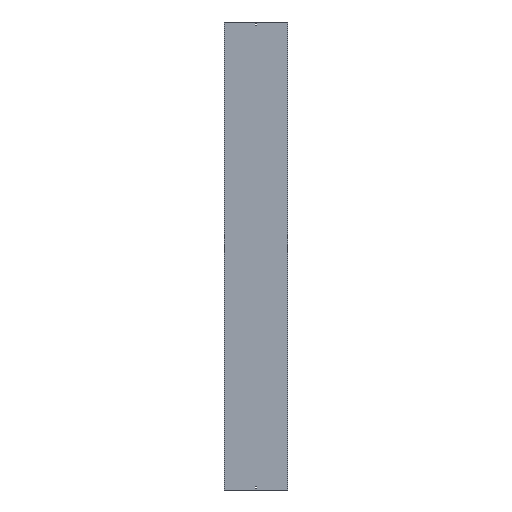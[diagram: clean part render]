
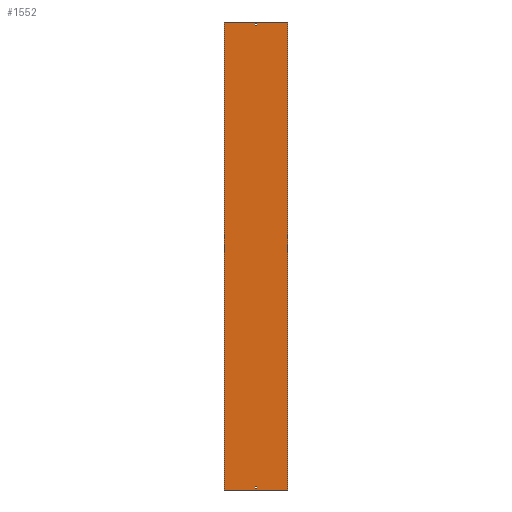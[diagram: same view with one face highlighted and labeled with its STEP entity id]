
A CAD part, front view. The second image highlights one B-rep face of the part: STEP entity #1552.
In plain terms, the highlighted planar face has unit normal (0, -1, 0).
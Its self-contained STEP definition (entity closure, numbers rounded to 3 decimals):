
#58 = CARTESIAN_POINT ( 'NONE',  ( -3.25, 0., -1488. ) ) ;
#88 = VERTEX_POINT ( 'NONE', #2563 ) ;
#95 = EDGE_CURVE ( 'NONE', #1005, #2073, #1024, .T. ) ;
#111 = VERTEX_POINT ( 'NONE', #1270 ) ;
#145 = EDGE_LOOP ( 'NONE', ( #2083, #1348, #1750, #2365 ) ) ;
#166 = CARTESIAN_POINT ( 'NONE',  ( -202., 0., 1500. ) ) ;
#185 = LINE ( 'NONE', #1699, #2319 ) ;
#224 = ORIENTED_EDGE ( 'NONE', *, *, #1586, .T. ) ;
#279 = CARTESIAN_POINT ( 'NONE',  ( -202., 0., 1500. ) ) ;
#286 = CARTESIAN_POINT ( 'NONE',  ( -3.25, 0., 1488. ) ) ;
#328 = ORIENTED_EDGE ( 'NONE', *, *, #859, .F. ) ;
#350 = CARTESIAN_POINT ( 'NONE',  ( -3.25, 0., 1479. ) ) ;
#367 = DIRECTION ( 'NONE',  ( 1., 0., 0. ) ) ;
#381 = FACE_OUTER_BOUND ( 'NONE', #1786, .T. ) ;
#385 = EDGE_CURVE ( 'NONE', #2024, #487, #685, .T. ) ;
#396 = CARTESIAN_POINT ( 'NONE',  ( 202., 0., 1500. ) ) ;
#408 = DIRECTION ( 'NONE',  ( 1., 0., 0. ) ) ;
#418 = EDGE_CURVE ( 'NONE', #476, #88, #475, .T. ) ;
#436 = LINE ( 'NONE', #2743, #1781 ) ;
#475 = LINE ( 'NONE', #742, #494 ) ;
#476 = VERTEX_POINT ( 'NONE', #58 ) ;
#487 = VERTEX_POINT ( 'NONE', #2290 ) ;
#494 = VECTOR ( 'NONE', #1574, 1000. ) ;
#584 = DIRECTION ( 'NONE',  ( 0., 0., -1. ) ) ;
#585 = VECTOR ( 'NONE', #1198, 1000. ) ;
#619 = EDGE_CURVE ( 'NONE', #1441, #2024, #1677, .T. ) ;
#656 = CARTESIAN_POINT ( 'NONE',  ( 3.25, 0., 1488. ) ) ;
#684 = ORIENTED_EDGE ( 'NONE', *, *, #619, .F. ) ;
#685 = LINE ( 'NONE', #952, #2056 ) ;
#742 = CARTESIAN_POINT ( 'NONE',  ( -3.25, 0., -1488. ) ) ;
#808 = ORIENTED_EDGE ( 'NONE', *, *, #385, .F. ) ;
#810 = EDGE_CURVE ( 'NONE', #1962, #1493, #1978, .T. ) ;
#855 = DIRECTION ( 'NONE',  ( -1., 0., 0. ) ) ;
#859 = EDGE_CURVE ( 'NONE', #1317, #1441, #2441, .T. ) ;
#907 = ORIENTED_EDGE ( 'NONE', *, *, #1313, .F. ) ;
#910 = CARTESIAN_POINT ( 'NONE',  ( -202., 0., -1500. ) ) ;
#922 = LINE ( 'NONE', #286, #2146 ) ;
#952 = CARTESIAN_POINT ( 'NONE',  ( -3.25, 0., 1488. ) ) ;
#955 = ORIENTED_EDGE ( 'NONE', *, *, #1434, .F. ) ;
#1005 = VERTEX_POINT ( 'NONE', #1242 ) ;
#1024 = LINE ( 'NONE', #396, #1206 ) ;
#1028 = LINE ( 'NONE', #1877, #2061 ) ;
#1053 = CARTESIAN_POINT ( 'NONE',  ( 202., 0., -1500. ) ) ;
#1065 = DIRECTION ( 'NONE',  ( 0., 0., -1. ) ) ;
#1133 = EDGE_CURVE ( 'NONE', #88, #2171, #1028, .T. ) ;
#1198 = DIRECTION ( 'NONE',  ( 1., 0., 0. ) ) ;
#1206 = VECTOR ( 'NONE', #1065, 1000. ) ;
#1222 = LINE ( 'NONE', #1635, #1299 ) ;
#1237 = CARTESIAN_POINT ( 'NONE',  ( -3.25, 0., 1479. ) ) ;
#1242 = CARTESIAN_POINT ( 'NONE',  ( 202., 0., 1500. ) ) ;
#1270 = CARTESIAN_POINT ( 'NONE',  ( 3.25, 0., -1488. ) ) ;
#1299 = VECTOR ( 'NONE', #584, 1000. ) ;
#1313 = EDGE_CURVE ( 'NONE', #1962, #1005, #185, .T. ) ;
#1317 = VERTEX_POINT ( 'NONE', #1237 ) ;
#1348 = ORIENTED_EDGE ( 'NONE', *, *, #1133, .T. ) ;
#1349 = EDGE_CURVE ( 'NONE', #111, #476, #436, .T. ) ;
#1379 = ORIENTED_EDGE ( 'NONE', *, *, #810, .T. ) ;
#1434 = EDGE_CURVE ( 'NONE', #487, #1317, #922, .T. ) ;
#1441 = VERTEX_POINT ( 'NONE', #2418 ) ;
#1442 = PLANE ( 'NONE',  #2730 ) ;
#1470 = DIRECTION ( 'NONE',  ( 0., 0., 1. ) ) ;
#1493 = VERTEX_POINT ( 'NONE', #910 ) ;
#1513 = VECTOR ( 'NONE', #367, 1000. ) ;
#1552 = ADVANCED_FACE ( 'NONE', ( #381, #1856, #2081 ), #1442, .F. ) ;
#1574 = DIRECTION ( 'NONE',  ( 0., 0., 1. ) ) ;
#1586 = EDGE_CURVE ( 'NONE', #1493, #2073, #2724, .T. ) ;
#1635 = CARTESIAN_POINT ( 'NONE',  ( 3.25, 0., -1488. ) ) ;
#1677 = LINE ( 'NONE', #656, #2456 ) ;
#1699 = CARTESIAN_POINT ( 'NONE',  ( -202., 0., 1500. ) ) ;
#1750 = ORIENTED_EDGE ( 'NONE', *, *, #2003, .T. ) ;
#1781 = VECTOR ( 'NONE', #855, 1000. ) ;
#1786 = EDGE_LOOP ( 'NONE', ( #224, #2514, #907, #1379 ) ) ;
#1856 = FACE_BOUND ( 'NONE', #2110, .T. ) ;
#1877 = CARTESIAN_POINT ( 'NONE',  ( -3.25, 0., -1479. ) ) ;
#1962 = VERTEX_POINT ( 'NONE', #166 ) ;
#1965 = DIRECTION ( 'NONE',  ( -1., 0., 0. ) ) ;
#1978 = LINE ( 'NONE', #279, #2141 ) ;
#2003 = EDGE_CURVE ( 'NONE', #2171, #111, #1222, .T. ) ;
#2024 = VERTEX_POINT ( 'NONE', #2296 ) ;
#2056 = VECTOR ( 'NONE', #1965, 1000. ) ;
#2061 = VECTOR ( 'NONE', #2736, 1000. ) ;
#2073 = VERTEX_POINT ( 'NONE', #1053 ) ;
#2081 = FACE_BOUND ( 'NONE', #145, .T. ) ;
#2083 = ORIENTED_EDGE ( 'NONE', *, *, #418, .T. ) ;
#2110 = EDGE_LOOP ( 'NONE', ( #328, #955, #808, #684 ) ) ;
#2141 = VECTOR ( 'NONE', #2173, 1000. ) ;
#2146 = VECTOR ( 'NONE', #2373, 1000. ) ;
#2158 = CARTESIAN_POINT ( 'NONE',  ( 3.25, 0., -1479. ) ) ;
#2171 = VERTEX_POINT ( 'NONE', #2158 ) ;
#2173 = DIRECTION ( 'NONE',  ( 0., 0., -1. ) ) ;
#2290 = CARTESIAN_POINT ( 'NONE',  ( -3.25, 0., 1488. ) ) ;
#2296 = CARTESIAN_POINT ( 'NONE',  ( 3.25, 0., 1488. ) ) ;
#2299 = DIRECTION ( 'NONE',  ( 0., 1., 0. ) ) ;
#2310 = CARTESIAN_POINT ( 'NONE',  ( -202., 0., -1500. ) ) ;
#2319 = VECTOR ( 'NONE', #408, 1000. ) ;
#2365 = ORIENTED_EDGE ( 'NONE', *, *, #1349, .T. ) ;
#2373 = DIRECTION ( 'NONE',  ( 0., 0., -1. ) ) ;
#2418 = CARTESIAN_POINT ( 'NONE',  ( 3.25, 0., 1479. ) ) ;
#2441 = LINE ( 'NONE', #350, #585 ) ;
#2456 = VECTOR ( 'NONE', #1470, 1000. ) ;
#2514 = ORIENTED_EDGE ( 'NONE', *, *, #95, .F. ) ;
#2515 = DIRECTION ( 'NONE',  ( -1., 0., 0. ) ) ;
#2563 = CARTESIAN_POINT ( 'NONE',  ( -3.25, 0., -1479. ) ) ;
#2724 = LINE ( 'NONE', #2310, #1513 ) ;
#2730 = AXIS2_PLACEMENT_3D ( 'NONE', #2738, #2299, #2515 ) ;
#2736 = DIRECTION ( 'NONE',  ( 1., 0., 0. ) ) ;
#2738 = CARTESIAN_POINT ( 'NONE',  ( -202., 0., 1500. ) ) ;
#2743 = CARTESIAN_POINT ( 'NONE',  ( -3.25, 0., -1488. ) ) ;
